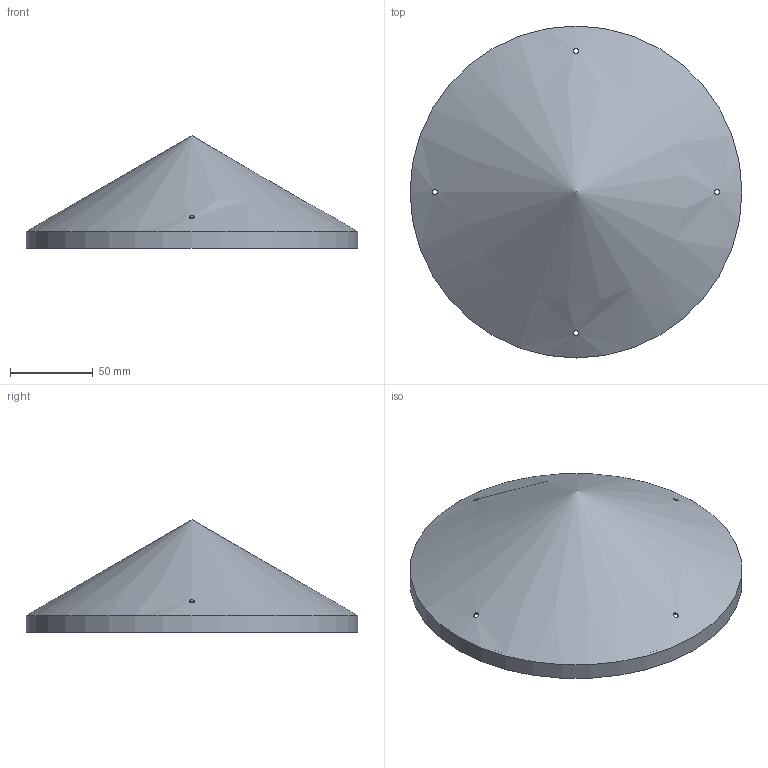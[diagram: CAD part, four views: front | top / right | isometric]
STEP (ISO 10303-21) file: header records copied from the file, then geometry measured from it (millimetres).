
FILE_DESCRIPTION(/* description */ ('STEP AP242','CAx-IF Rec.Pracs.---Representation and Presentation of Product Manufacturing Information (PMI)---4.0---2014-10-13','CAx-IF Rec.Pracs.---3D Tessellated Geometry---0.4---2014-09-14','2;1'),/* implementation_level */ '2;1');
FILE_NAME(/* name */ '678792ac94e29274771f40e3',/* time_stamp */ '2025-01-15T10:49:18Z',/* author */ (''),/* organization */ (''),/* preprocessor_version */ 'ST-DEVELOPER v20',/* originating_system */ 'ONSHAPE BY PTC INC, 1.192',/* authorisation */ ' ');
FILE_SCHEMA (('AP242_MANAGED_MODEL_BASED_3D_ENGINEERING_MIM_LF { 1 0 10303 442 1 1 4 }'));
Length unit declared in the file: metre
Products named in the file (1): Part 1
Bounding box: 200 x 200 x 67.73 mm (x, y, z)
Volume: 38505.4 mm3; surface area: 84833 mm2
Topology: 1 solids, 1 shells, 9 faces, 31 edges, 21 vertices
Faces by surface type: cylinder 6, cone 2, plane 1
Full cylindrical faces by diameter (mm): 3 x4, 196.8 x1, 200 x1
Entity records: 332 total; most frequent: CARTESIAN_POINT 132, DIRECTION 28, FACE_BOUND 26, ORIENTED_EDGE 24, EDGE_LOOP 24, VERTEX_POINT 14, AXIS2_PLACEMENT_3D 14, EDGE_CURVE 12
